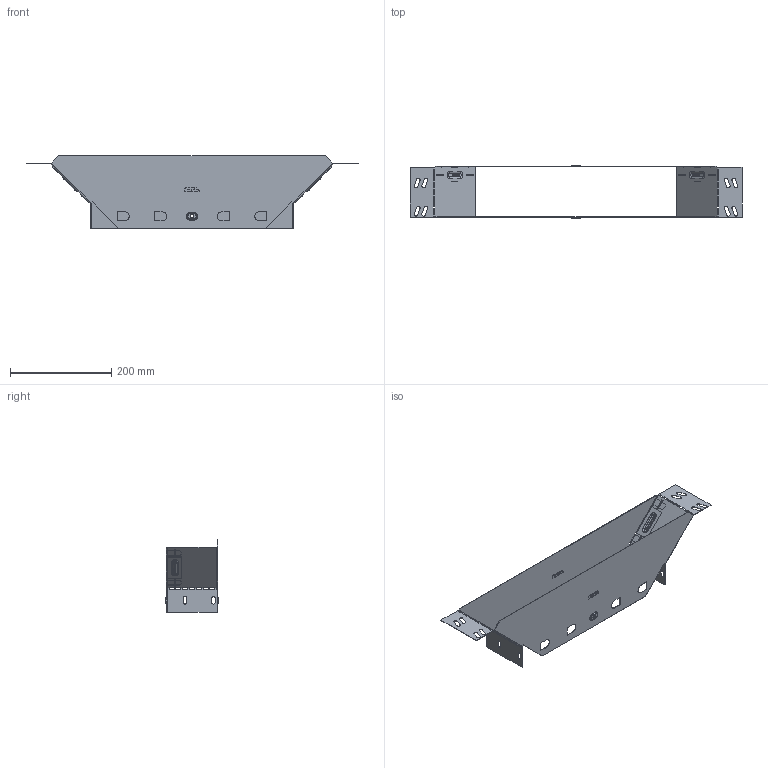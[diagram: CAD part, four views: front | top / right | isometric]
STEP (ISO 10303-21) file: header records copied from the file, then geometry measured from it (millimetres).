
FILE_DESCRIPTION (( 'STEP AP214' ), '1' );
FILE_NAME ('tn10040008_捘.STEP', '2019-06-10T08:02:25', ( '砐錪賧瘔蠈錪 Windows' ), ( '' ), 'SwSTEP 2.0', 'SolidWorks 2018', '' );
FILE_SCHEMA (( 'AUTOMOTIVE_DESIGN' ));
Length unit declared in the file: millimetre
Products named in the file (1): tn10040008_捘
Bounding box: 656.02 x 103.8 x 144 mm (x, y, z)
Volume: 130881.2 mm3; surface area: 331656.7 mm2
Topology: 2 solids, 2 shells, 714 faces, 2042 edges, 1292 vertices
Faces by surface type: plane 432, cylinder 216, torus 48, bspline 18
Entity records: 24117 total; most frequent: CARTESIAN_POINT 5007, ORIENTED_EDGE 4084, DIRECTION 3904, EDGE_CURVE 2042, VECTOR 1502, LINE 1502, VERTEX_POINT 1292, AXIS2_PLACEMENT_3D 1201
